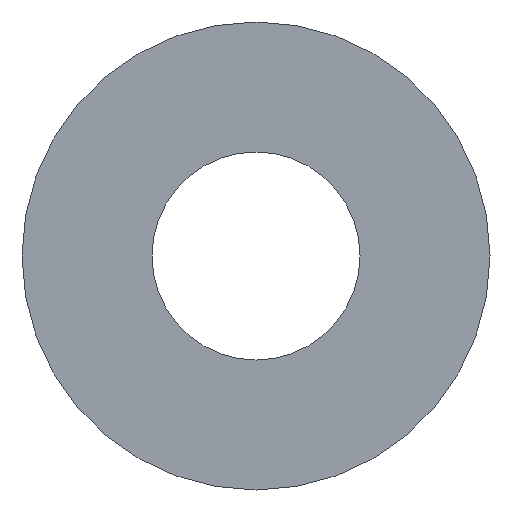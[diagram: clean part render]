
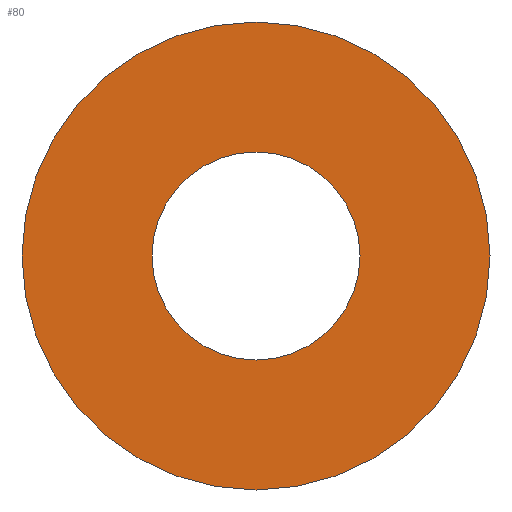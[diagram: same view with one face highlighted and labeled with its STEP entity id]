
A CAD part, left-side view. The second image highlights one B-rep face of the part: STEP entity #80.
In plain terms, the highlighted planar face has unit normal (-1, 0, 0).
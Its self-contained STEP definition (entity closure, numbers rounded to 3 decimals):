
#23=ORIENTED_EDGE('',*,*,#35,.F.);
#24=ORIENTED_EDGE('',*,*,#36,.T.);
#35=EDGE_CURVE('',#41,#41,#47,.T.);
#36=EDGE_CURVE('',#42,#42,#48,.T.);
#41=VERTEX_POINT('',#140);
#42=VERTEX_POINT('',#142);
#47=CIRCLE('',#100,9.);
#48=CIRCLE('',#101,4.);
#53=EDGE_LOOP('',(#23));
#54=EDGE_LOOP('',(#24));
#65=FACE_BOUND('',#53,.T.);
#66=FACE_BOUND('',#54,.T.);
#77=PLANE('',#99);
#80=ADVANCED_FACE('',(#65,#66),#77,.F.);
#99=AXIS2_PLACEMENT_3D('',#138,#113,#114);
#100=AXIS2_PLACEMENT_3D('',#139,#115,#116);
#101=AXIS2_PLACEMENT_3D('',#141,#117,#118);
#113=DIRECTION('',(1.,0.,0.));
#114=DIRECTION('',(0.,0.,-1.));
#115=DIRECTION('',(1.,0.,0.));
#116=DIRECTION('',(0.,0.,-1.));
#117=DIRECTION('',(1.,0.,0.));
#118=DIRECTION('',(0.,0.,-1.));
#138=CARTESIAN_POINT('',(0.,0.,0.));
#139=CARTESIAN_POINT('',(0.,0.,0.));
#140=CARTESIAN_POINT('',(0.,0.,-9.));
#141=CARTESIAN_POINT('',(0.,0.,0.));
#142=CARTESIAN_POINT('',(0.,0.,-4.));
